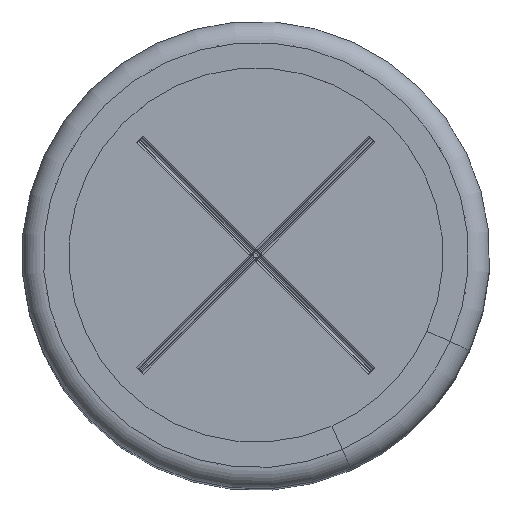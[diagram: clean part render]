
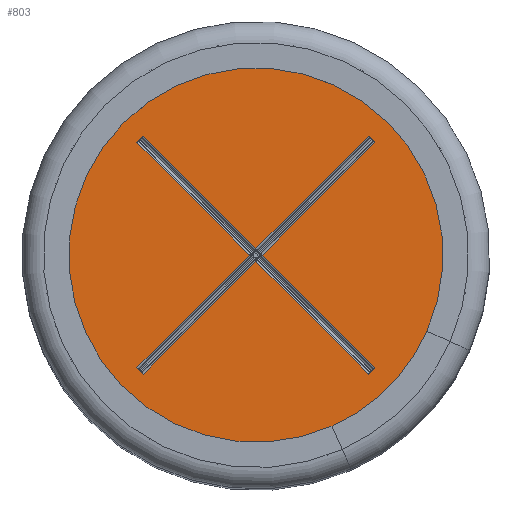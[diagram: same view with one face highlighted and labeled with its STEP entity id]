
A CAD part, top view. The second image highlights one B-rep face of the part: STEP entity #803.
In plain terms, the highlighted planar face has unit normal (0, 0, 1).
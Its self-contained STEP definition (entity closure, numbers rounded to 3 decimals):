
#176=FACE_BOUND('',#1284,.T.);
#177=FACE_BOUND('',#1285,.T.);
#687=PLANE('',#4047);
#803=ADVANCED_FACE('',(#176,#177),#687,.T.);
#1284=EDGE_LOOP('',(#2130));
#1285=EDGE_LOOP('',(#2131,#2132,#2133,#2134,#2135,#2136,#2137,#2138,#2139,
#2140,#2141,#2142));
#1517=LINE('',#5710,#1771);
#1518=LINE('',#5713,#1772);
#1519=LINE('',#5715,#1773);
#1520=LINE('',#5717,#1774);
#1521=LINE('',#5719,#1775);
#1522=LINE('',#5721,#1776);
#1523=LINE('',#5723,#1777);
#1524=LINE('',#5725,#1778);
#1525=LINE('',#5727,#1779);
#1526=LINE('',#5729,#1780);
#1527=LINE('',#5731,#1781);
#1528=LINE('',#5733,#1782);
#1771=VECTOR('',#4590,1.);
#1772=VECTOR('',#4591,1.);
#1773=VECTOR('',#4592,1.);
#1774=VECTOR('',#4593,1.);
#1775=VECTOR('',#4594,1.);
#1776=VECTOR('',#4595,1.);
#1777=VECTOR('',#4596,1.);
#1778=VECTOR('',#4597,1.);
#1779=VECTOR('',#4598,1.);
#1780=VECTOR('',#4599,1.);
#1781=VECTOR('',#4600,1.);
#1782=VECTOR('',#4601,1.);
#2130=ORIENTED_EDGE('',*,*,#3368,.F.);
#2131=ORIENTED_EDGE('',*,*,#3369,.T.);
#2132=ORIENTED_EDGE('',*,*,#3370,.T.);
#2133=ORIENTED_EDGE('',*,*,#3371,.T.);
#2134=ORIENTED_EDGE('',*,*,#3372,.F.);
#2135=ORIENTED_EDGE('',*,*,#3373,.T.);
#2136=ORIENTED_EDGE('',*,*,#3374,.T.);
#2137=ORIENTED_EDGE('',*,*,#3375,.F.);
#2138=ORIENTED_EDGE('',*,*,#3376,.T.);
#2139=ORIENTED_EDGE('',*,*,#3377,.T.);
#2140=ORIENTED_EDGE('',*,*,#3378,.T.);
#2141=ORIENTED_EDGE('',*,*,#3379,.T.);
#2142=ORIENTED_EDGE('',*,*,#3380,.T.);
#3038=VERTEX_POINT('',#5709);
#3039=VERTEX_POINT('',#5711);
#3040=VERTEX_POINT('',#5712);
#3041=VERTEX_POINT('',#5714);
#3042=VERTEX_POINT('',#5716);
#3043=VERTEX_POINT('',#5718);
#3044=VERTEX_POINT('',#5720);
#3045=VERTEX_POINT('',#5722);
#3046=VERTEX_POINT('',#5724);
#3047=VERTEX_POINT('',#5726);
#3048=VERTEX_POINT('',#5728);
#3049=VERTEX_POINT('',#5730);
#3050=VERTEX_POINT('',#5732);
#3368=EDGE_CURVE('',#3038,#3038,#3826,.T.);
#3369=EDGE_CURVE('',#3039,#3040,#1517,.T.);
#3370=EDGE_CURVE('',#3040,#3041,#1518,.T.);
#3371=EDGE_CURVE('',#3041,#3042,#1519,.T.);
#3372=EDGE_CURVE('',#3043,#3042,#1520,.T.);
#3373=EDGE_CURVE('',#3043,#3044,#1521,.T.);
#3374=EDGE_CURVE('',#3044,#3045,#1522,.T.);
#3375=EDGE_CURVE('',#3046,#3045,#1523,.T.);
#3376=EDGE_CURVE('',#3046,#3047,#1524,.T.);
#3377=EDGE_CURVE('',#3047,#3048,#1525,.T.);
#3378=EDGE_CURVE('',#3048,#3049,#1526,.T.);
#3379=EDGE_CURVE('',#3049,#3050,#1527,.T.);
#3380=EDGE_CURVE('',#3050,#3039,#1528,.T.);
#3826=CIRCLE('',#4046,10.);
#4046=AXIS2_PLACEMENT_3D('',#5708,#4588,#4589);
#4047=AXIS2_PLACEMENT_3D('',#5734,#4602,#4603);
#4588=DIRECTION('',(0.,0.,-1.));
#4589=DIRECTION('',(-1.,0.,0.));
#4590=DIRECTION('',(0.707,-0.707,0.));
#4591=DIRECTION('',(-0.707,-0.707,0.));
#4592=DIRECTION('',(0.707,-0.707,0.));
#4593=DIRECTION('',(0.707,0.707,0.));
#4594=DIRECTION('',(-0.707,0.707,0.));
#4595=DIRECTION('',(-0.707,-0.707,0.));
#4596=DIRECTION('',(0.707,-0.707,0.));
#4597=DIRECTION('',(0.707,0.707,0.));
#4598=DIRECTION('',(-0.707,0.707,0.));
#4599=DIRECTION('',(0.707,0.707,0.));
#4600=DIRECTION('',(0.707,-0.707,0.));
#4601=DIRECTION('',(0.707,0.707,0.));
#4602=DIRECTION('',(0.,0.,1.));
#4603=DIRECTION('',(1.,0.,0.));
#5708=CARTESIAN_POINT('',(0.,0.,44.8));
#5709=CARTESIAN_POINT('',(-10.,0.,44.8));
#5710=CARTESIAN_POINT('',(5.339,5.551,44.8));
#5711=CARTESIAN_POINT('',(5.295,5.594,44.8));
#5712=CARTESIAN_POINT('',(5.594,5.295,44.8));
#5713=CARTESIAN_POINT('',(-4.85,-5.15,44.8));
#5714=CARTESIAN_POINT('',(0.3,0.,44.8));
#5715=CARTESIAN_POINT('',(-4.85,5.15,44.8));
#5716=CARTESIAN_POINT('',(5.594,-5.295,44.8));
#5717=CARTESIAN_POINT('',(5.551,-5.339,44.8));
#5718=CARTESIAN_POINT('',(5.295,-5.594,44.8));
#5719=CARTESIAN_POINT('',(-5.15,4.85,44.8));
#5720=CARTESIAN_POINT('',(0.,-0.3,44.8));
#5721=CARTESIAN_POINT('',(-4.85,-5.15,44.8));
#5722=CARTESIAN_POINT('',(-5.295,-5.594,44.8));
#5723=CARTESIAN_POINT('',(-5.551,-5.339,44.8));
#5724=CARTESIAN_POINT('',(-5.594,-5.295,44.8));
#5725=CARTESIAN_POINT('',(-5.15,-4.85,44.8));
#5726=CARTESIAN_POINT('',(-0.3,0.,44.8));
#5727=CARTESIAN_POINT('',(-5.15,4.85,44.8));
#5728=CARTESIAN_POINT('',(-5.594,5.295,44.8));
#5729=CARTESIAN_POINT('',(-5.339,5.551,44.8));
#5730=CARTESIAN_POINT('',(-5.295,5.594,44.8));
#5731=CARTESIAN_POINT('',(-4.85,5.15,44.8));
#5732=CARTESIAN_POINT('',(0.,0.3,44.8));
#5733=CARTESIAN_POINT('',(-5.15,-4.85,44.8));
#5734=CARTESIAN_POINT('',(-10.,0.,44.8));
